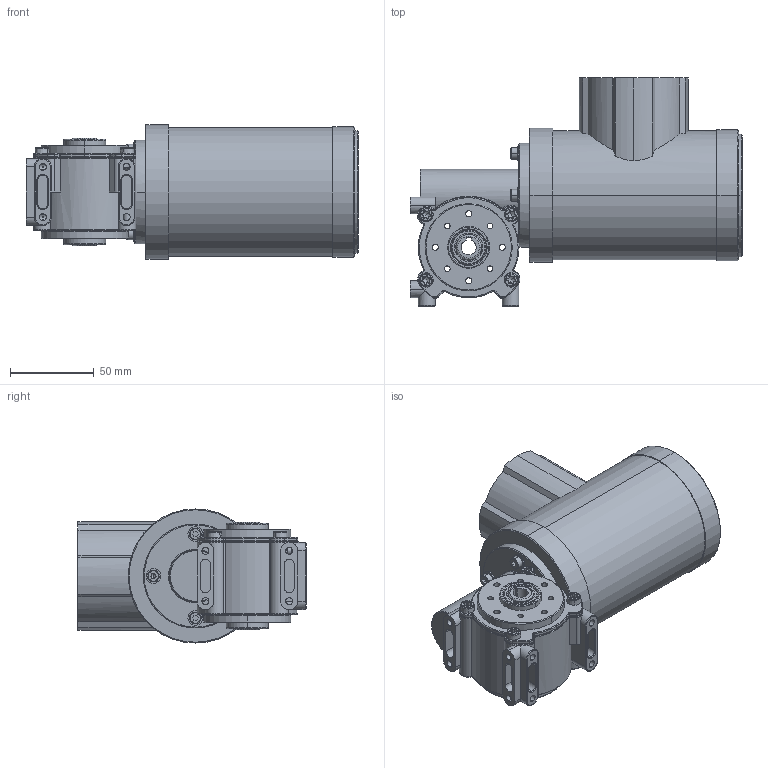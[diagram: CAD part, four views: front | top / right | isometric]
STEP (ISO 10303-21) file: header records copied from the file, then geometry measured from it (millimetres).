
FILE_DESCRIPTION (( 'STEP AP214' ), '1' );
FILE_NAME ('SN18H_90W_3000Upm_D.STEP', '2021-03-17T08:46:47', ( '' ), ( '' ), 'SwSTEP 2.0', 'SolidWorks 2019', '' );
FILE_SCHEMA (( 'AUTOMOTIVE_DESIGN' ));
Length unit declared in the file: millimetre
Products named in the file (1): SN18H_90W_3000Upm_D
Bounding box: 198 x 136 x 80 mm (x, y, z)
Surface area: 82350.3 mm2 (no closed solid volume)
Topology: 0 solids, 17 shells, 550 faces, 1510 edges, 979 vertices
Faces by surface type: cylinder 288, torus 123, plane 95, cone 34, sphere 6, bspline 4
Entity records: 26191 total; most frequent: CARTESIAN_POINT 6011, DIRECTION 3189, ORIENTED_EDGE 2765, EDGE_CURVE 1494, AXIS2_PLACEMENT_3D 1353, VERTEX_POINT 976, CIRCLE 806, EDGE_LOOP 631
